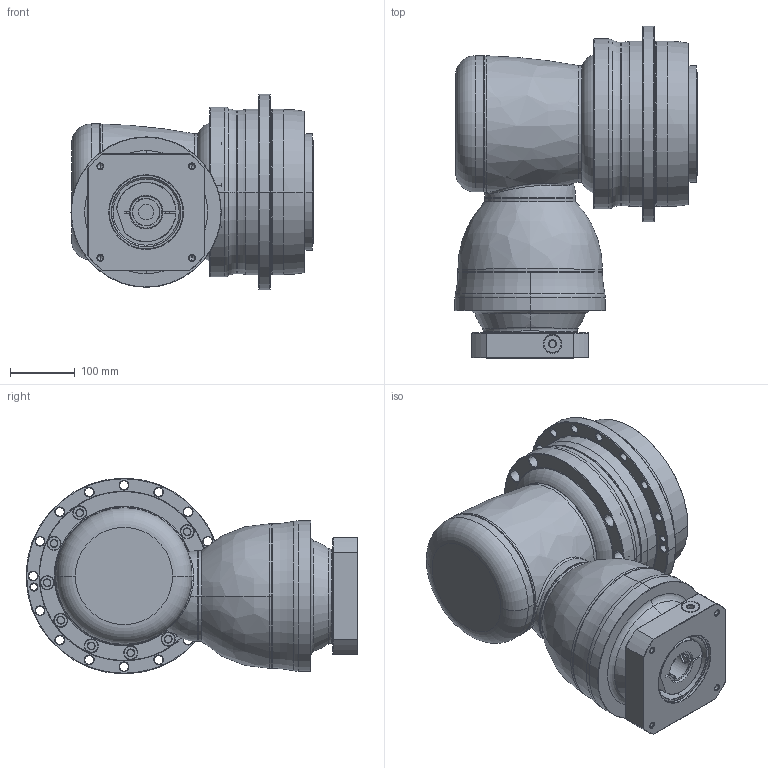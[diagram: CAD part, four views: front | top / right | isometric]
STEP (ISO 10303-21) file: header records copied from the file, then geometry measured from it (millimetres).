
FILE_DESCRIPTION((''),'2;1');
FILE_NAME('AHKB255_3ST_42-P0409A00101_ASM','2016-11-30T',('d01943'),(''),'PRO/ENGINEER BY PARAMETRIC TECHNOLOGY CORPORATION, 2008410','PRO/ENGINEER BY PARAMETRIC TECHNOLOGY CORPORATION, 2008410','');
FILE_SCHEMA(('CONFIG_CONTROL_DESIGN'));
Length unit declared in the file: millimetre
Products named in the file (12): P1008600002; P1802700001; P0278700003; P0359700003; P1315600001; P1007600001; P1317600501; P0409A00101; P0503A00012; P0912505001; 21711422019; AHKB255_3ST_42-P0409A00101_ASM
Assembly tree (11 placements, depth 2):
  AHKB255_3ST_42-P0409A00101_ASM
    P1008600002
    P1802700001
    P0278700003
    P0359700003
    P1315600001
    P1007600001
    P1317600501
    P0409A00101
    P0503A00012
    P0912505001
    21711422019
Bounding box: 373.5 x 512 x 302 mm (x, y, z)
Volume: 17111819 mm3; surface area: 1383932.1 mm2
Topology: 12 solids, 12 shells, 1008 faces, 2297 edges, 1326 vertices
Faces by surface type: cylinder 370, cone 338, plane 137, torus 124, bspline 37, sphere 2
Entity records: 34694 total; most frequent: CARTESIAN_POINT 11485, DIRECTION 5344, ORIENTED_EDGE 4438, AXIS2_PLACEMENT_3D 2282, EDGE_CURVE 2219, VERTEX_POINT 1326, CIRCLE 1288, EDGE_LOOP 1189
